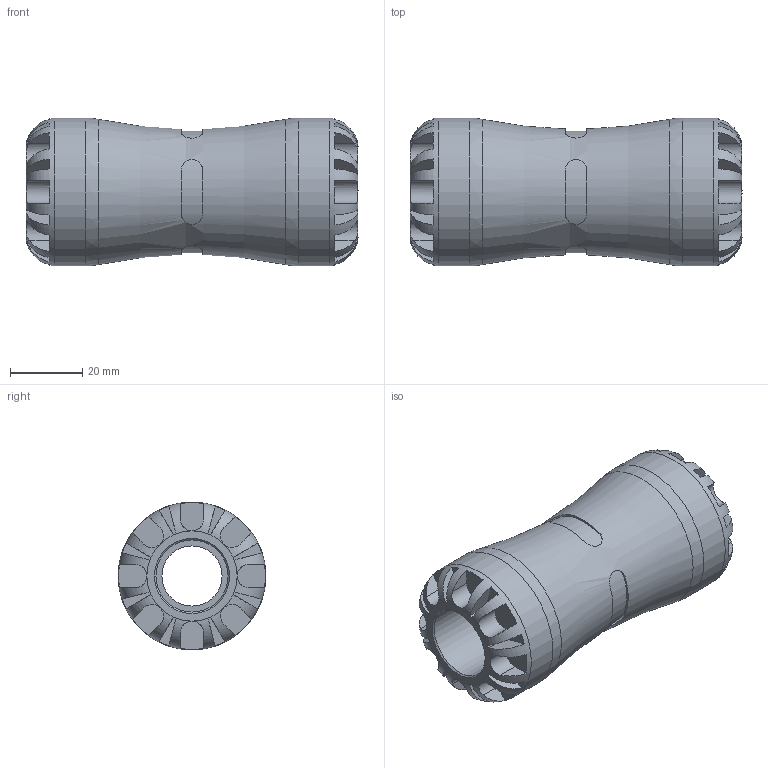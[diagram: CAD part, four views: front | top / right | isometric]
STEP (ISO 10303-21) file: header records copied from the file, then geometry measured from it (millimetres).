
FILE_DESCRIPTION(/* description */ ('PLASSON COUPLER 20X20 SERIES 1'),/* implementation_level */ '2;1');
FILE_NAME(/* name */ 'C:\Dropbox\KIMPROJECTS-Inventor\99-16-3568-Processing\1001\100100020_190100020.ipt.stp',/* time_stamp */ '2017-01-17T10:59:04+02:00',/* author */ ('KIM'),/* organization */ (''),/* preprocessor_version */ 'ST-DEVELOPER v15.6',/* originating_system */ 'Autodesk Inventor 2015',/* authorisation */ '');
FILE_SCHEMA (('AUTOMOTIVE_DESIGN { 1 0 10303 214 3 1 1 }'));
Length unit declared in the file: millimetre
Products named in the file (1): 100100020_190100020
Bounding box: 92 x 41 x 41 mm (x, y, z)
Volume: 71166.4 mm3; surface area: 20633.5 mm2
Topology: 1 solids, 1 shells, 164 faces, 419 edges, 262 vertices
Faces by surface type: plane 108, cylinder 49, torus 3, cone 2, bspline 2
Full cylindrical faces by diameter (mm): 16.667 x1, 20 x2, 41 x2
Entity records: 6432 total; most frequent: CARTESIAN_POINT 2463, ORIENTED_EDGE 808, DIRECTION 762, EDGE_CURVE 404, AXIS2_PLACEMENT_3D 309, VERTEX_POINT 258, EDGE_LOOP 182, STYLED_ITEM 165
